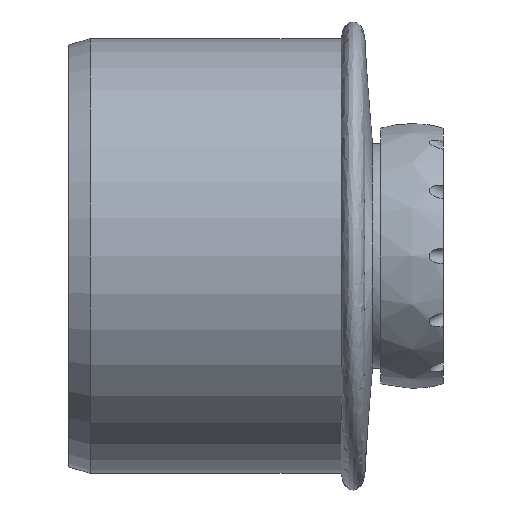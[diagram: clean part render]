
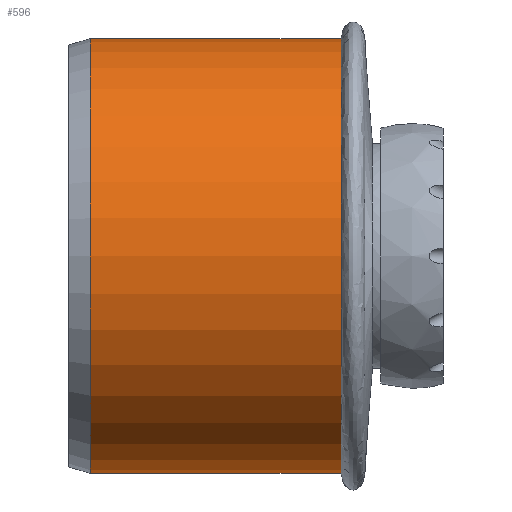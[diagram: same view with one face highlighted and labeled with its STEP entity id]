
A CAD part, front view. The second image highlights one B-rep face of the part: STEP entity #596.
In plain terms, the highlighted cylindrical face has radius 55.1 mm (diameter 110.2 mm), a full revolution.
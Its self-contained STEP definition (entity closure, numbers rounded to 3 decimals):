
#17=FACE_BOUND('',#145,.T.);
#75=CYLINDRICAL_SURFACE('',#677,55.1);
#107=FACE_OUTER_BOUND('',#144,.T.);
#144=EDGE_LOOP('',(#501));
#145=EDGE_LOOP('',(#502));
#189=CIRCLE('',#670,55.1);
#192=CIRCLE('',#676,55.1);
#274=VERTEX_POINT('',#1528);
#277=VERTEX_POINT('',#1538);
#354=EDGE_CURVE('',#274,#274,#189,.T.);
#357=EDGE_CURVE('',#277,#277,#192,.T.);
#501=ORIENTED_EDGE('',*,*,#354,.F.);
#502=ORIENTED_EDGE('',*,*,#357,.T.);
#596=ADVANCED_FACE('',(#107,#17),#75,.T.);
#670=AXIS2_PLACEMENT_3D('',#1530,#832,#833);
#676=AXIS2_PLACEMENT_3D('',#1539,#844,#845);
#677=AXIS2_PLACEMENT_3D('',#1540,#846,#847);
#832=DIRECTION('center_axis',(1.,0.,0.));
#833=DIRECTION('ref_axis',(0.,0.,-1.));
#844=DIRECTION('center_axis',(1.,0.,0.));
#845=DIRECTION('ref_axis',(0.,0.,-1.));
#846=DIRECTION('center_axis',(1.,0.,0.));
#847=DIRECTION('ref_axis',(0.,1.,0.));
#1528=CARTESIAN_POINT('',(69.1,80.35,0.));
#1530=CARTESIAN_POINT('Origin',(69.1,25.25,0.));
#1538=CARTESIAN_POINT('',(5.5,80.35,0.));
#1539=CARTESIAN_POINT('Origin',(5.5,25.25,0.));
#1540=CARTESIAN_POINT('Origin',(37.3,25.25,0.));
